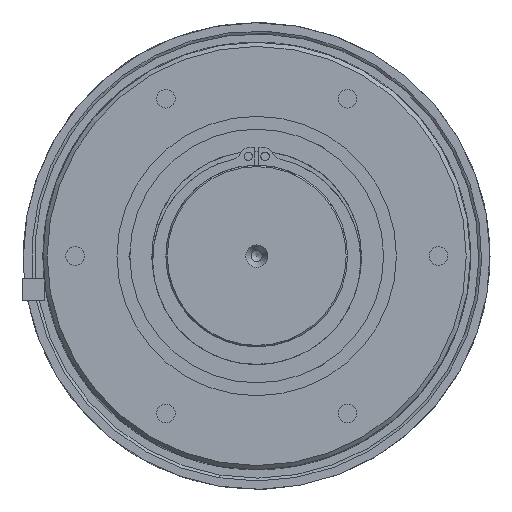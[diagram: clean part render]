
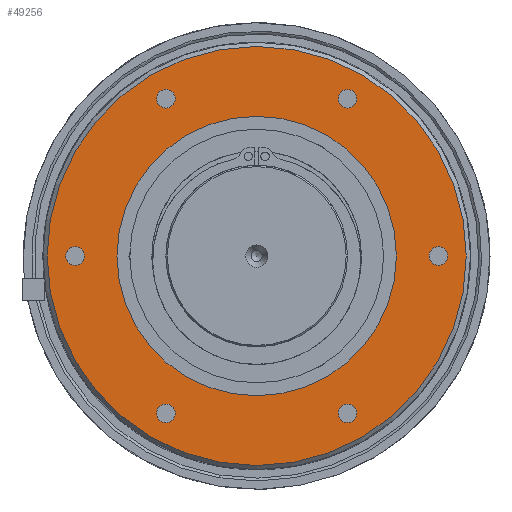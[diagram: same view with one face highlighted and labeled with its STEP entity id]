
A CAD part, left-side view. The second image highlights one B-rep face of the part: STEP entity #49256.
In plain terms, the highlighted planar face has unit normal (-1, 0, 0).
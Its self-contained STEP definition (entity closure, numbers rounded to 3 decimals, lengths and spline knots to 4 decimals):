
#984=FACE_BOUND('',#8639,.T.);
#985=FACE_BOUND('',#8640,.T.);
#986=FACE_BOUND('',#8641,.T.);
#987=FACE_BOUND('',#8642,.T.);
#988=FACE_BOUND('',#8643,.T.);
#989=FACE_BOUND('',#8644,.T.);
#990=FACE_BOUND('',#8645,.T.);
#1117=PLANE('',#52773);
#6036=FACE_OUTER_BOUND('',#8638,.T.);
#8638=EDGE_LOOP('',(#31986));
#8639=EDGE_LOOP('',(#31987));
#8640=EDGE_LOOP('',(#31988));
#8641=EDGE_LOOP('',(#31989));
#8642=EDGE_LOOP('',(#31990));
#8643=EDGE_LOOP('',(#31991));
#8644=EDGE_LOOP('',(#31992));
#8645=EDGE_LOOP('',(#31993));
#15941=CIRCLE('',#51890,2.9528);
#16162=CIRCLE('',#52774,1.9685);
#16163=CIRCLE('',#52775,0.1308);
#16164=CIRCLE('',#52776,0.1308);
#16165=CIRCLE('',#52777,0.1308);
#16166=CIRCLE('',#52778,0.1308);
#16167=CIRCLE('',#52779,0.1308);
#16168=CIRCLE('',#52780,0.1308);
#18128=VERTEX_POINT('',#76370);
#19010=VERTEX_POINT('',#78138);
#19011=VERTEX_POINT('',#78140);
#19012=VERTEX_POINT('',#78142);
#19013=VERTEX_POINT('',#78144);
#19014=VERTEX_POINT('',#78146);
#19015=VERTEX_POINT('',#78148);
#19016=VERTEX_POINT('',#78150);
#23333=EDGE_CURVE('',#18128,#18128,#15941,.T.);
#24216=EDGE_CURVE('',#19010,#19010,#16162,.T.);
#24217=EDGE_CURVE('',#19011,#19011,#16163,.T.);
#24218=EDGE_CURVE('',#19012,#19012,#16164,.T.);
#24219=EDGE_CURVE('',#19013,#19013,#16165,.T.);
#24220=EDGE_CURVE('',#19014,#19014,#16166,.T.);
#24221=EDGE_CURVE('',#19015,#19015,#16167,.T.);
#24222=EDGE_CURVE('',#19016,#19016,#16168,.T.);
#31986=ORIENTED_EDGE('',*,*,#23333,.F.);
#31987=ORIENTED_EDGE('',*,*,#24216,.T.);
#31988=ORIENTED_EDGE('',*,*,#24217,.T.);
#31989=ORIENTED_EDGE('',*,*,#24218,.T.);
#31990=ORIENTED_EDGE('',*,*,#24219,.T.);
#31991=ORIENTED_EDGE('',*,*,#24220,.T.);
#31992=ORIENTED_EDGE('',*,*,#24221,.T.);
#31993=ORIENTED_EDGE('',*,*,#24222,.T.);
#49256=ADVANCED_FACE('',(#6036,#984,#985,#986,#987,#988,#989,#990),#1117,
 .T.);
#51890=AXIS2_PLACEMENT_3D('',#76372,#59293,#59294);
#52773=AXIS2_PLACEMENT_3D('',#78137,#61060,#61061);
#52774=AXIS2_PLACEMENT_3D('',#78139,#61062,#61063);
#52775=AXIS2_PLACEMENT_3D('',#78141,#61064,#61065);
#52776=AXIS2_PLACEMENT_3D('',#78143,#61066,#61067);
#52777=AXIS2_PLACEMENT_3D('',#78145,#61068,#61069);
#52778=AXIS2_PLACEMENT_3D('',#78147,#61070,#61071);
#52779=AXIS2_PLACEMENT_3D('',#78149,#61072,#61073);
#52780=AXIS2_PLACEMENT_3D('',#78151,#61074,#61075);
#59293=DIRECTION('center_axis',(1.,0.,0.));
#59294=DIRECTION('ref_axis',(0.,-1.,0.));
#61060=DIRECTION('center_axis',(-1.,0.,0.));
#61061=DIRECTION('ref_axis',(0.,0.,1.));
#61062=DIRECTION('center_axis',(1.,0.,0.));
#61063=DIRECTION('ref_axis',(0.,1.,0.));
#61064=DIRECTION('center_axis',(1.,0.,0.));
#61065=DIRECTION('ref_axis',(0.,0.,1.));
#61066=DIRECTION('center_axis',(1.,0.,0.));
#61067=DIRECTION('ref_axis',(0.,0.,1.));
#61068=DIRECTION('center_axis',(1.,0.,0.));
#61069=DIRECTION('ref_axis',(0.,0.,1.));
#61070=DIRECTION('center_axis',(1.,0.,0.));
#61071=DIRECTION('ref_axis',(0.,0.,1.));
#61072=DIRECTION('center_axis',(1.,0.,0.));
#61073=DIRECTION('ref_axis',(0.,0.,1.));
#61074=DIRECTION('center_axis',(1.,0.,0.));
#61075=DIRECTION('ref_axis',(0.,0.,1.));
#76370=CARTESIAN_POINT('',(-1.6339,2.9528,0.));
#76372=CARTESIAN_POINT('Origin',(-1.6339,0.,0.));
#78137=CARTESIAN_POINT('Origin',(-1.6339,2.4902,0.));
#78138=CARTESIAN_POINT('',(-1.6339,-1.9685,0.));
#78139=CARTESIAN_POINT('Origin',(-1.6339,0.,0.));
#78140=CARTESIAN_POINT('',(-1.6339,2.5591,-0.1308));
#78141=CARTESIAN_POINT('Origin',(-1.6339,2.5591,0.));
#78142=CARTESIAN_POINT('',(-1.6339,1.2795,-2.3471));
#78143=CARTESIAN_POINT('Origin',(-1.6339,1.2795,-2.2162));
#78144=CARTESIAN_POINT('',(-1.6339,-1.2795,-2.3471));
#78145=CARTESIAN_POINT('Origin',(-1.6339,-1.2795,-2.2162));
#78146=CARTESIAN_POINT('',(-1.6339,-2.5591,-0.1308));
#78147=CARTESIAN_POINT('Origin',(-1.6339,-2.5591,0.));
#78148=CARTESIAN_POINT('',(-1.6339,-1.2795,2.0854));
#78149=CARTESIAN_POINT('Origin',(-1.6339,-1.2795,2.2162));
#78150=CARTESIAN_POINT('',(-1.6339,1.2795,2.0854));
#78151=CARTESIAN_POINT('Origin',(-1.6339,1.2795,2.2162));
